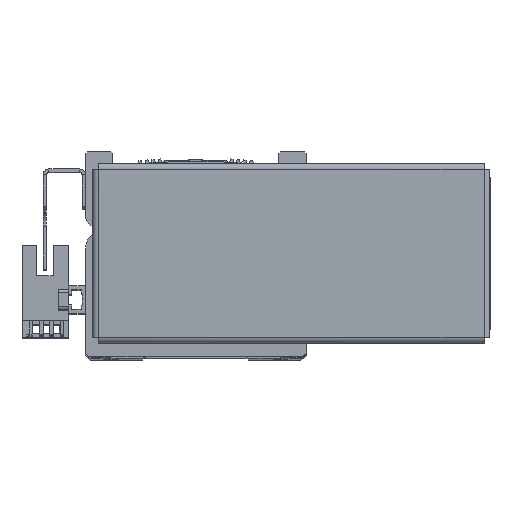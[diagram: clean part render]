
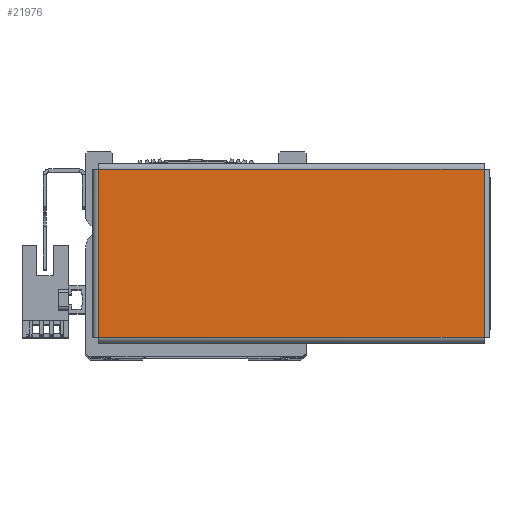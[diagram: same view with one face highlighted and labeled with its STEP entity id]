
A CAD part, top view. The second image highlights one B-rep face of the part: STEP entity #21976.
In plain terms, the highlighted planar face has unit normal (0, 0, 1) as drawn and (0, 0, -1) by its records, which use the part's own axes.
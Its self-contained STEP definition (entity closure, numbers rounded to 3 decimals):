
#7592 = EDGE_CURVE ( 'NONE', #21038, #20995, #18623, .T. ) ;
#7603 = EDGE_CURVE ( 'NONE', #21101, #21007, #18576, .T. ) ;
#7606 = EDGE_CURVE ( 'NONE', #21007, #21038, #18593, .T. ) ;
#7651 = EDGE_CURVE ( 'NONE', #20995, #21101, #18656, .T. ) ;
#10441 = CARTESIAN_POINT ( 'NONE',  ( 56.863, -24.763, -1. ) ) ;
#10482 = CARTESIAN_POINT ( 'NONE',  ( -56.863, 24.763, -1. ) ) ;
#16921 = DIRECTION ( 'NONE',  ( -1., 0., 0. ) ) ;
#16944 = CARTESIAN_POINT ( 'NONE',  ( 56.893, -24.763, -1. ) ) ;
#16960 = CARTESIAN_POINT ( 'NONE',  ( -56.893, 24.763, -1. ) ) ;
#16961 = DIRECTION ( 'NONE',  ( 1., 0., 0. ) ) ;
#16969 = CARTESIAN_POINT ( 'NONE',  ( 56.863, 24.793, -1. ) ) ;
#16989 = DIRECTION ( 'NONE',  ( 0., -1., 0. ) ) ;
#17085 = CARTESIAN_POINT ( 'NONE',  ( -56.863, -24.793, -1. ) ) ;
#17110 = DIRECTION ( 'NONE',  ( 0., 1., 0. ) ) ;
#18576 = LINE ( 'NONE', #16960, #18617 ) ;
#18593 = LINE ( 'NONE', #16969, #18619 ) ;
#18617 = VECTOR ( 'NONE', #16961, 1000. ) ;
#18618 = VECTOR ( 'NONE', #16921, 1000. ) ;
#18619 = VECTOR ( 'NONE', #16989, 1000. ) ;
#18623 = LINE ( 'NONE', #16944, #18618 ) ;
#18656 = LINE ( 'NONE', #17085, #18665 ) ;
#18665 = VECTOR ( 'NONE', #17110, 1000. ) ;
#19209 = CARTESIAN_POINT ( 'NONE',  ( 56.863, 24.763, -1. ) ) ;
#19228 = CARTESIAN_POINT ( 'NONE',  ( -56.863, -24.763, -1. ) ) ;
#20995 = VERTEX_POINT ( 'NONE', #19228 ) ;
#21007 = VERTEX_POINT ( 'NONE', #19209 ) ;
#21038 = VERTEX_POINT ( 'NONE', #10441 ) ;
#21101 = VERTEX_POINT ( 'NONE', #10482 ) ;
#21976 = ADVANCED_FACE ( 'NONE', ( #29796 ), #30848, .F. ) ;
#23065 = ORIENTED_EDGE ( 'NONE', *, *, #7651, .T. ) ;
#23117 = ORIENTED_EDGE ( 'NONE', *, *, #7606, .T. ) ;
#23120 = ORIENTED_EDGE ( 'NONE', *, *, #7592, .T. ) ;
#23159 = ORIENTED_EDGE ( 'NONE', *, *, #7603, .T. ) ;
#23897 = EDGE_LOOP ( 'NONE', ( #23117, #23120, #23065, #23159 ) ) ;
#25541 = AXIS2_PLACEMENT_3D ( 'NONE', #30846, #30872, #30873 ) ;
#29796 = FACE_OUTER_BOUND ( 'NONE', #23897, .T. ) ;
#30846 = CARTESIAN_POINT ( 'NONE',  ( 0., 0., -1. ) ) ;
#30848 = PLANE ( 'NONE',  #25541 ) ;
#30872 = DIRECTION ( 'NONE',  ( 0., 0., 1. ) ) ;
#30873 = DIRECTION ( 'NONE',  ( 1., 0., 0. ) ) ;
